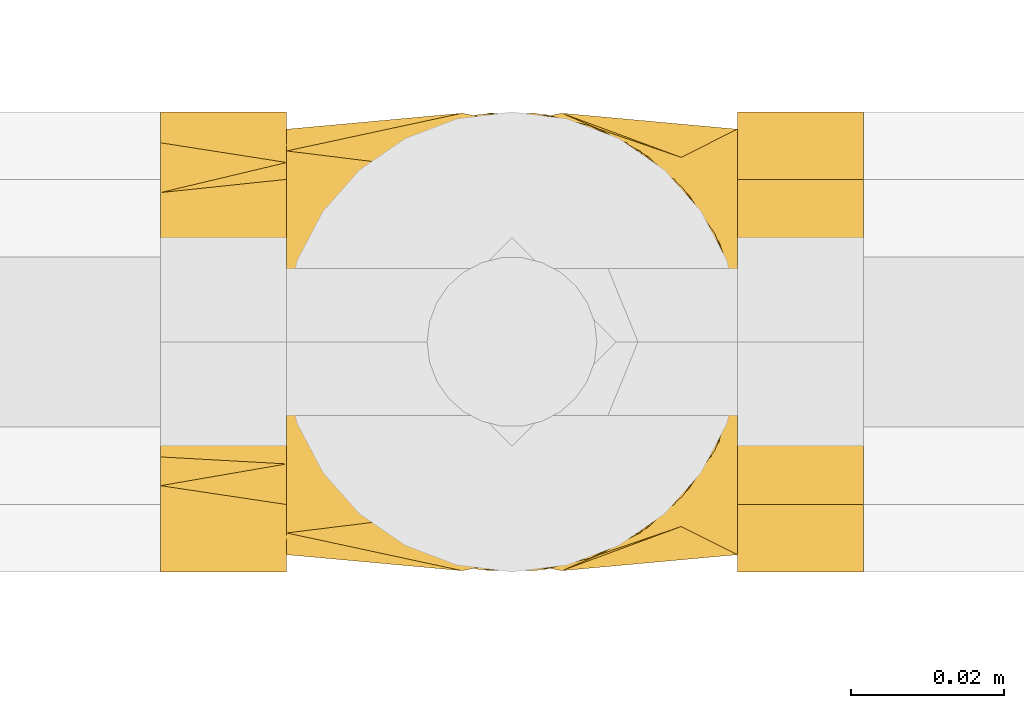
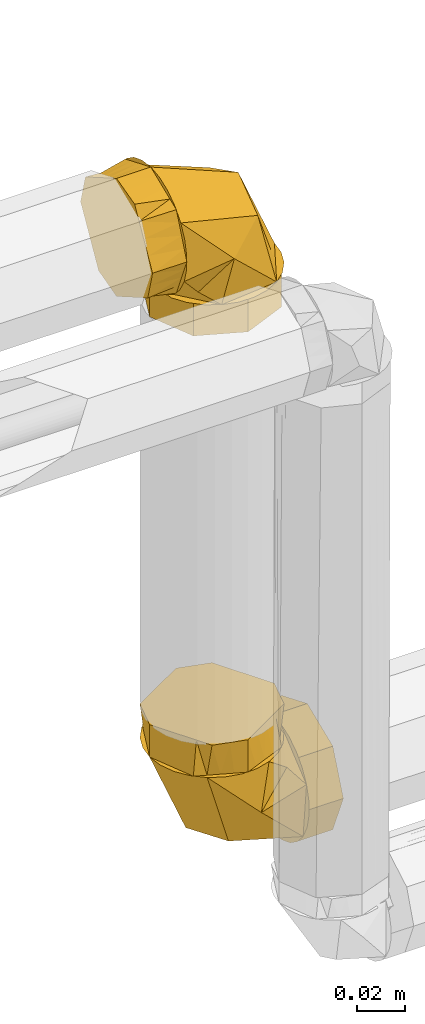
# One storey, part 207 of 652: 2 coverings.
"""IFC2X3 building model written with IfcOpenShell, lengths in millimetres."""

import ifcopenshell
import ifcopenshell.guid

model = None  # the IFC model being written
_history = None  # IfcOwnerHistory: only IFC2X3 demands one
_inside = {}  # id of a spatial element -> (the spatial element, [elements in it])
_under = {}  # id of a project, library or spatial element -> (it, [spatial elements below it])
_declared = {}  # id of a project -> (the project, [libraries it declares])
_typed = {}  # id of a type object -> (the type object, [elements of that type])
_made_of = {}  # id of a material, layer set ... -> (it, [elements and type objects made of it])


def new_model(schema):
    """Start an empty IFC model of exactly this schema.

    Asked for "IFC4X3", IfcOpenShell would pick the latest addendum, in which some entities
    have other attributes; the version numbers below select the first issue.
    IFC2X3 requires an IfcOwnerHistory on every rooted entity: one is made here for all.
    """
    global model, _history
    if schema == "IFC4X3":
        model = ifcopenshell.file(schema_version=(4, 3, 0, 0))
    else:
        model = ifcopenshell.file(schema=schema)
    _inside.clear()
    _under.clear()
    _declared.clear()
    _typed.clear()
    _made_of.clear()
    _history = None
    if model.schema == "IFC2X3":
        org = make("IfcOrganization", Name="unknown")
        user = make(
            "IfcPersonAndOrganization",
            ThePerson=make("IfcPerson", FamilyName="unknown"),
            TheOrganization=org,
        )
        app = make(
            "IfcApplication",
            ApplicationDeveloper=org,
            Version="unknown",
            ApplicationFullName="unknown",
            ApplicationIdentifier="unknown",
        )
        _history = make(
            "IfcOwnerHistory",
            OwningUser=user,
            OwningApplication=app,
            ChangeAction="ADDED",
            CreationDate=0,
        )
    return model


def make(cls, **values):
    """One entity of the class cls with the attributes given. An attribute that is None is left unset."""
    return model.create_entity(
        cls, **{name: value for name, value in values.items() if value is not None}
    )


def entity(cls, *values):
    """Any entity or typed value of the class cls, its attributes in the order of the schema. None: left unset."""
    e = model.create_entity(cls)
    for i, value in enumerate(values):
        if value is not None:
            e[i] = value
    return e


def rooted(cls, **values):
    """An entity with a GlobalId (a new one), such as an element, a storey or a relation."""
    return make(cls, GlobalId=ifcopenshell.guid.new(), OwnerHistory=_history, **values)


def si_unit(unit_type, name, prefix=None):
    """IfcSIUnit, for example si_unit("LENGTHUNIT", "METRE", prefix="MILLI")."""
    return make("IfcSIUnit", UnitType=unit_type, Prefix=prefix, Name=name)


def converted_unit(unit_type, name, factor, base, dimensions=None, offset=None):
    """IfcConversionBasedUnit, such as the inch: factor (a typed value) times the base unit."""
    return make(
        "IfcConversionBasedUnit"
        if offset is None
        else "IfcConversionBasedUnitWithOffset",
        ConversionOffset=offset,
        Dimensions=None
        if dimensions is None
        else entity("IfcDimensionalExponents", *dimensions),
        UnitType=unit_type,
        Name=name,
        ConversionFactor=make(
            "IfcMeasureWithUnit", ValueComponent=factor, UnitComponent=base
        ),
    )


def assignment(units):
    """IfcUnitAssignment: the units of a project."""
    return None if units is None else make("IfcUnitAssignment", Units=units)


def point(xyz):
    """IfcCartesianPoint."""
    return None if xyz is None else make("IfcCartesianPoint", Coordinates=xyz)


def direction(xyz):
    """IfcDirection."""
    return None if xyz is None else make("IfcDirection", DirectionRatios=xyz)


def frame(location, z_axis=None, x_axis=None):
    """IfcAxis2Placement3D, a coordinate frame: its origin and axes. An axis left out is left unset."""
    return make(
        "IfcAxis2Placement3D",
        Location=point(location),
        Axis=direction(z_axis),
        RefDirection=direction(x_axis),
    )


def origin():
    """The frame at (0, 0, 0) with its axes left unset."""
    return frame((0.0, 0.0, 0.0))


def place(relative_to, where):
    """IfcLocalPlacement: puts the frame where relative to a parent placement (None: the world)."""
    return make(
        "IfcLocalPlacement", PlacementRelTo=relative_to, RelativePlacement=where
    )


def context(
    kind, dimensions, precision=None, world=None, true_north=None, identifier=None
):
    """IfcGeometricRepresentationContext, for example the 3D "Model" context."""
    return make(
        "IfcGeometricRepresentationContext",
        ContextIdentifier=identifier,
        ContextType=kind,
        CoordinateSpaceDimension=dimensions,
        Precision=precision,
        WorldCoordinateSystem=world,
        TrueNorth=true_north,
    )


def subcontext(parent, identifier, kind, view, scale=None):
    """IfcGeometricRepresentationSubContext, for example "Body" below "Model"."""
    return make(
        "IfcGeometricRepresentationSubContext",
        ContextIdentifier=identifier,
        ContextType=kind,
        ParentContext=parent,
        TargetScale=scale,
        TargetView=view,
    )


def project(units=None, contexts=None):
    """IfcProject with its units and contexts."""
    return rooted(
        "IfcProject",
        Name="project",
        RepresentationContexts=contexts,
        UnitsInContext=assignment(units),
    )


def spatial(cls, under=None, at=None, **own):
    """A site, building, storey or space (cls), placed at a placement, below another one or the project."""
    s = rooted(cls, ObjectPlacement=at, **own)
    if under is not None:
        _under.setdefault(under.id(), (under, []))[1].append(s)
    return s


def faces_of(points, faces, orient=None, outer=None):
    """IfcFace entities. A face is a list of loops; a loop is a list of indices into points, from 0.

    orient and outer hold one flag for each loop. By default every Orientation is true, the
    first loop of a face is its IfcFaceOuterBound and the others are IfcFaceBound.
    """
    made = []
    for i, loops in enumerate(faces):
        bounds = []
        for j, loop in enumerate(loops):
            is_outer = j == 0 if outer is None else outer[i][j]
            bounds.append(
                make(
                    "IfcFaceOuterBound" if is_outer else "IfcFaceBound",
                    Bound=make("IfcPolyLoop", Polygon=[points[k] for k in loop]),
                    Orientation=True if orient is None else orient[i][j],
                )
            )
        made.append(make("IfcFace", Bounds=bounds))
    return made


def face_set(faces, orient=None, outer=None):
    """The faces of one IfcConnectedFaceSet. surface_model builds it on its shared points."""
    return ("IfcConnectedFaceSet", faces, orient, outer)


def surface_model(cls, points, shells):
    """IfcFaceBasedSurfaceModel or IfcShellBasedSurfaceModel (cls): surfaces that need not close."""
    shared = [point(p) for p in points]
    made = [make(c, CfsFaces=faces_of(shared, fs, o, b)) for c, fs, o, b in shells]
    if cls == "IfcFaceBasedSurfaceModel":
        return make(cls, FbsmFaces=made)
    return make(cls, SbsmBoundary=made)


def shape(context_of_items, identifier, shape_type, items):
    """IfcShapeRepresentation: the items that make up one representation, for example the "Body"."""
    return make(
        "IfcShapeRepresentation",
        ContextOfItems=context_of_items,
        RepresentationIdentifier=identifier,
        RepresentationType=shape_type,
        Items=items,
    )


def material(Name=None, Category=None):
    """IfcMaterial."""
    return make("IfcMaterial", Name=Name, Category=Category)


def made_of(thing, what):
    """Note that an element or type object is made of a material, layer set ...; save() writes the relation."""
    if what is not None:
        _made_of.setdefault(what.id(), (what, []))[1].append(thing)
    return thing


def type_object(cls, material=None, **own):
    """A type object (cls), such as IfcWallType, which elements share."""
    return made_of(rooted(cls, **own), material)


def element(
    cls,
    number,
    at=None,
    inside=None,
    cuts=None,
    type_object=None,
    material=None,
    context=None,
    identifier="Body",
    shape_type=None,
    held_by="IfcProductDefinitionShape",
    body=None,
    shapes=None,
    **own,
):
    """One element of the class cls, such as IfcWall. Its Tag is "e" and its number.

    at: its placement. inside: the storey or other place that contains it. cuts: it is an
    opening in that element (IfcRelVoidsElement). A single representation is given by context,
    identifier, shape_type and body (its items); several are given by shapes. held_by: the class
    of the entity that holds the representations. save() writes the other relations.
    """
    e = rooted(cls, Tag="e%d" % number, ObjectPlacement=at, **own)
    if body is not None:
        shapes = [shape(context, identifier, shape_type, body)]
    if shapes is not None:
        e.Representation = make(held_by, Representations=shapes)
    if inside is not None:
        _inside.setdefault(inside.id(), (inside, []))[1].append(e)
    if cuts is not None:
        rooted(
            "IfcRelVoidsElement", RelatingBuildingElement=cuts, RelatedOpeningElement=e
        )
    if type_object is not None:
        _typed.setdefault(type_object.id(), (type_object, []))[1].append(e)
    return made_of(e, material)


def aggregate(whole, parts):
    """IfcRelAggregates: a whole, such as a stair, and the parts it consists of."""
    return rooted("IfcRelAggregates", RelatingObject=whole, RelatedObjects=parts)


def save(model, path):
    """Write the relations noted so far, then the file.

    IfcRelAggregates (storeys below a building ...), IfcRelContainedInSpatialStructure (elements
    in a storey), IfcRelDefinesByType, IfcRelAssociatesMaterial and IfcRelDeclares: one each for
    every whole, place, type object, material and project.
    """
    for whole, parts in _under.values():
        aggregate(whole, parts)
    for where, things in _inside.values():
        rooted(
            "IfcRelContainedInSpatialStructure",
            RelatedElements=things,
            RelatingStructure=where,
        )
    for kind, things in _typed.values():
        rooted("IfcRelDefinesByType", RelatedObjects=things, RelatingType=kind)
    for what, things in _made_of.values():
        rooted("IfcRelAssociatesMaterial", RelatedObjects=things, RelatingMaterial=what)
    for by, libraries in _declared.values():
        rooted("IfcRelDeclares", RelatingContext=by, RelatedDefinitions=libraries)
    model.write(path)


model = new_model("IFC2X3")

# Units and contexts
model_context = context("Model", 3, precision=0.01, world=frame((0.0, 0.0, 308426.39999999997)), true_north=direction((6.123233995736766e-17, 1.0)))
plan_context = context("Plan", 3, precision=0.01, world=frame((0.0, 0.0, 308426.39999999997)), true_north=direction((6.123233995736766e-17, 1.0)))
body_context = subcontext(model_context, "Body", "Model", "MODEL_VIEW")
ifc_project = project(units=[si_unit("LENGTHUNIT", "METRE", prefix="MILLI"), si_unit("AREAUNIT", "SQUARE_METRE"), si_unit("VOLUMEUNIT", "CUBIC_METRE"), converted_unit("PLANEANGLEUNIT", "DEGREE", entity("IfcPlaneAngleMeasure", 0.017453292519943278), si_unit("PLANEANGLEUNIT", "RADIAN"), dimensions=[0, 0, 0, 0, 0, 0, 0])], contexts=[model_context, plan_context])

# Site, building, storey
site_placement = place(None, origin())
site = spatial("IfcSite", under=ifc_project, at=site_placement, Name="Default", CompositionType="ELEMENT")
building_placement = place(site_placement, origin())
building = spatial("IfcBuilding", under=site, at=building_placement, CompositionType="ELEMENT")
storey_placement = place(building_placement, frame((0.0, 0.0, 1730.6999999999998)))
storey = spatial("IfcBuildingStorey", under=building, at=storey_placement, Name="EG_Produktion_FFB", CompositionType="ELEMENT", Elevation=1730.6999999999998)

# Coverings
ifc_material = material(Name="Dämmung - Armaflex-Schlauch")
covering_type = type_object("IfcCoveringType", Name="Rohrdämmung außen:Armaflex-Schlauch", PredefinedType="INSULATION")
covering_1_placement = place(storey_placement, frame((38831.24397776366, 69883.29222776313, 3946.017249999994)))
element("IfcCovering", 1, at=covering_1_placement, inside=storey, type_object=covering_type, material=ifc_material, Name="Rohrdämmung außen:Armaflex-Schlauch", ObjectType="Rohrdämmung außen:Armaflex-Schlauch", PredefinedType="INSULATION", context=body_context, shape_type="SurfaceModel", body=[
    surface_model("IfcFaceBasedSurfaceModel", [(61.212272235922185, 25.687212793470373, -16.512749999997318), (61.212272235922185, 44.70572496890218, -18.854483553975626), (61.212272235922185, 50.906653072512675, -22.818852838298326), (61.212272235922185, 55.96068805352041, -28.1690363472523), (61.212272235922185, 59.56591450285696, -34.58542749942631), (61.212272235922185, 61.50696520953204, -41.68472713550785), (61.21227223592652, 61.667886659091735, -49.04284085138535), (61.21227223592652, 60.03906580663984, -56.22021333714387), (61.21227223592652, 56.71780433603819, -62.788086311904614), (61.21227223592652, 51.902506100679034, -68.3541114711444), (61.21227223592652, 45.88082497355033, -72.58578839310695), (61.21227223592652, 39.012481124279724, -75.2303272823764), (61.21227223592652, 31.70777223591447, -76.1297499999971), (61.21227223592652, 24.40306334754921, -75.2303272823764), (61.21227223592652, 17.534719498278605, -72.58578839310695), (61.21227223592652, 11.513038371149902, -68.3541114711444), (61.21227223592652, 6.697740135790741, -62.788086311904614), (61.21227223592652, 3.3764786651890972, -56.22021333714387), (61.21227223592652, 1.7476578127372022, -49.04284085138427), (61.212272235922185, 1.908579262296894, -41.68472713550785), (61.212272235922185, 3.8496299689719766, -34.58542749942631), (61.212272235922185, 7.454856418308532, -28.1690363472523), (61.212272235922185, 12.508891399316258, -22.818852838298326), (61.212272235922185, 18.70981950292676, -18.854483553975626), (61.212272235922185, 37.728331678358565, -16.512749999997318), (58.87053868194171, 18.70981950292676, -16.512749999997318), (54.90616939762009, 12.508891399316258, -16.512749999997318), (49.55598588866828, 7.454856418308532, -16.5127499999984), (43.13959473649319, 3.8496299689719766, -16.5127499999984), (36.040295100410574, 1.908579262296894, -16.512749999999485), (28.682181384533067, 1.7476578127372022, -16.512749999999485), (21.50480889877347, 3.3764786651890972, -16.512750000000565), (14.936935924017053, 6.697740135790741, -16.512750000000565), (9.37091076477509, 11.513038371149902, -16.51275000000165), (5.139233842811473, 17.534719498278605, -16.51275000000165), (2.494694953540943, 24.40306334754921, -16.51275000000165), (1.5952722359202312, 31.70777223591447, -16.51275000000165), (2.494694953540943, 39.012481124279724, -16.51275000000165), (5.139233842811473, 45.88082497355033, -16.51275000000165), (9.37091076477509, 51.902506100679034, -16.51275000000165), (14.936935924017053, 56.71780433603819, -16.512750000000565), (21.50480889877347, 60.03906580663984, -16.512750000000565), (28.682181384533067, 61.667886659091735, -16.512749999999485), (36.040295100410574, 61.50696520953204, -16.512749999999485), (43.13959473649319, 59.56591450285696, -16.5127499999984), (49.55598588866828, 55.96068805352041, -16.5127499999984), (54.90616939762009, 50.906653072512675, -16.512749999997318), (58.87053868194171, 44.70572496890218, -16.512749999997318), (53.84763600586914, 7.534737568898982, -25.40638574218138), (52.34075124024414, 14.966842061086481, -16.51274255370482), (61.21230275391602, 14.966842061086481, -25.38313134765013), (28.042234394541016, 11.613558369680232, -56.47018731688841), (61.21230275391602, 19.43168581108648, -69.58101495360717), (38.209055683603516, 1.7490442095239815, -39.51482690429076), (29.037522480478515, 5.274410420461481, -16.51274255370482), (19.056736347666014, 31.71000612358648, -58.66830895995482), (8.266697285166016, 19.203792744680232, -16.51274255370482), (61.21230275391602, 5.274410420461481, -48.68694146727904), (53.84763600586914, 55.88062379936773, -25.40638574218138), (61.21230275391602, 48.448519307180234, -25.38313134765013), (28.042234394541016, 51.80180299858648, -56.47018731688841), (61.21230275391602, 43.983675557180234, -69.58101495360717), (52.175645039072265, 48.64850710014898, -16.51274255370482), (38.209055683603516, 61.666317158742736, -39.51482690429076), (8.266697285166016, 44.21156862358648, -16.51274255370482), (61.21230275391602, 58.14095094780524, -48.68694146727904), (29.037522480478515, 58.14095094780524, -16.51274255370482), (77.72502223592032, 15.738207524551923, -69.51493971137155), (77.72502223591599, 21.061395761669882, -71.71987647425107), (77.72502223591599, 26.384583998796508, -73.92481323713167), (77.72502223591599, 31.70777223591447, -76.12975000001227), (77.72502223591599, 38.57087959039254, -73.28695785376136), (77.72502223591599, 42.35414871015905, -71.71987647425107), (77.72502223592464, 47.67733694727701, -69.51493971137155), (77.72502223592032, 53.000525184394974, -67.31000294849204), (77.72502223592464, 55.20546194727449, -61.98681471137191), (77.72502223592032, 57.410398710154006, -56.663626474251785), (77.72502223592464, 59.615335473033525, -51.34043823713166), (77.72502223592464, 61.8202722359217, -46.01725000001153), (77.72502223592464, 58.97748009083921, -39.1541426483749), (77.72502223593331, 57.410398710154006, -35.37087352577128), (77.72502223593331, 55.20546194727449, -30.047685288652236), (77.72502223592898, 53.000525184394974, -24.724497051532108), (77.72502223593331, 47.67733694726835, -22.51956028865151), (77.72502223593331, 42.35414871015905, -20.314623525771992), (77.72502223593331, 37.03096047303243, -18.10968676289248), (77.72502223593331, 31.70777223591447, -15.90475000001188), (77.72502223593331, 24.844664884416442, -18.747542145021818), (77.72502223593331, 21.061395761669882, -20.314623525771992), (77.72502223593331, 15.738207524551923, -22.51956028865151), (77.72502223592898, 10.415019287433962, -24.724497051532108), (77.72502223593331, 8.210082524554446, -30.047685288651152), (77.72502223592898, 6.005145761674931, -35.37087352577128), (77.72502223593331, 3.800208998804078, -40.69406176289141), (77.72502223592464, 1.5952722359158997, -46.01725000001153), (77.72502223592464, 4.438064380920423, -52.88035735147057), (77.72502223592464, 6.005145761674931, -56.663626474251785), (77.72502223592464, 8.210082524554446, -61.986814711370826), (77.72502223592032, 10.415019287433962, -67.31000294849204), (61.212272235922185, 61.8202722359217, -46.017250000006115), (61.212272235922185, 59.615335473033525, -51.34043823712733), (61.21227223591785, 57.410398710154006, -56.66362647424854), (61.212272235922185, 55.20546194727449, -61.98681471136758), (61.21227223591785, 53.000525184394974, -67.31000294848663), (61.21227223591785, 45.43398709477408, -70.4441656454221), (61.212272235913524, 38.57087966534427, -73.28695782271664), (61.212272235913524, 31.70777223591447, -76.12975000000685), (61.212272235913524, 26.384583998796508, -73.92481323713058), (61.212272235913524, 21.061395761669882, -71.71987647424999), (61.21227223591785, 15.738207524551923, -69.5149397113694), (61.21227223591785, 10.415019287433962, -67.31000294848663), (61.21227223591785, 7.280856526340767, -59.743464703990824), (61.212272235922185, 4.438064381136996, -52.88035735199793), (61.212272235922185, 1.5952722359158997, -46.017250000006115), (61.212272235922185, 3.8002089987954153, -40.694061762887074), (61.21227223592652, 6.005145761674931, -35.370873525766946), (61.21227223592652, 8.210082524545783, -30.047685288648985), (61.21227223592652, 10.415019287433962, -24.724497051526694), (61.21227223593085, 17.981557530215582, -21.59033429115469), (61.21227223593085, 24.844664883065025, -18.74754214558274), (61.21227223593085, 31.70777223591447, -15.904750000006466), (61.21227223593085, 37.03096047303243, -18.109686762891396), (61.21227223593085, 42.35414871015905, -20.314623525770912), (61.21227223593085, 47.677336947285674, -22.519560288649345), (61.21227223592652, 53.000525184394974, -24.724497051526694), (61.21227223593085, 56.13468794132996, -32.29103528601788), (61.212272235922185, 58.9774800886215, -39.15414264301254), (1.5952722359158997, 31.70777223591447, 0.0), (5.359334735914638, 25.18822474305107, 0.0), (9.123397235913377, 18.66867725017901, 0.0), (12.887459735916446, 12.14912975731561, 0.0), (16.651522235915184, 5.62958226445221, 0.0), (24.179647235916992, 3.612427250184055, 0.0), (31.70777223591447, 1.5952722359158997, 0.0), (38.227319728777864, 5.3593347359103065, 0.0), (44.74686722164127, 9.123397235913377, 0.0), (51.266414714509, 12.887459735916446, 0.0), (57.78596220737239, 16.651522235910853, 0.0), (59.80311722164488, 24.179647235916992, 0.0), (61.82027223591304, 31.70777223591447, 0.0), (58.05620973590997, 38.227319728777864, 0.0), (54.29214723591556, 44.74686722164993, 0.0), (50.52808473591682, 51.266414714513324, 0.0), (46.76402223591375, 57.78596220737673, 0.0), (39.23589723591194, 59.80311722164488, 0.0), (31.70777223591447, 61.82027223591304, 0.0), (25.18822474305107, 58.05620973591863, 0.0), (18.66867725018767, 54.29214723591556, 0.0), (12.149129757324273, 50.528084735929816, 0.0), (5.629582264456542, 46.764022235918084, 0.0), (3.612427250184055, 39.23589723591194, 0.0), (1.5952722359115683, 31.70777223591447, -16.512750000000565), (3.8002089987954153, 37.03096047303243, -16.512750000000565), (6.005145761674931, 42.35414871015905, -16.512750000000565), (8.210082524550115, 47.67733694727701, -16.512750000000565), (10.415019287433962, 53.000525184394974, -16.512750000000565), (15.738207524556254, 55.20546194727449, -16.512750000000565), (21.061395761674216, 57.410398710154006, -16.512750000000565), (26.384583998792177, 59.61533547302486, -16.51275000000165), (31.70777223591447, 61.82027223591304, -16.512750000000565), (37.03096047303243, 59.615335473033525, -16.512750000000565), (42.354148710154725, 57.410398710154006, -16.512750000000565), (47.67733694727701, 55.20546194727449, -16.512750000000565), (53.000525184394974, 53.000525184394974, -16.512750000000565), (55.20546194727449, 47.67733694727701, -16.512750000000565), (57.410398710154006, 42.35414871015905, -16.512750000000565), (59.615335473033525, 37.03096047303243, -16.512750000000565), (61.82027223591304, 31.70777223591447, -16.512750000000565), (59.615335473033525, 26.384583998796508, -16.512750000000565), (57.410398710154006, 21.061395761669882, -16.512750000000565), (55.20546194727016, 15.738207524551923, -16.512750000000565), (53.000525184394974, 10.415019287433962, -16.512750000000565), (47.677336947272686, 8.210082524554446, -16.512750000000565), (42.354148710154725, 6.005145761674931, -16.512750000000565), (37.03096047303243, 3.8002089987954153, -16.512750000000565), (31.70777223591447, 1.5952722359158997, -16.512750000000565), (26.384583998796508, 3.8002089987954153, -16.512750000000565), (21.061395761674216, 6.005145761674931, -16.512750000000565), (15.738207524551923, 8.210082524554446, -16.512750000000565), (10.415019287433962, 10.415019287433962, -16.512750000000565), (8.210082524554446, 15.738207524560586, -16.512750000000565), (6.005145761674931, 21.061395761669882, -16.512750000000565), (3.8002089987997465, 26.384583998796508, -16.512750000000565)], [face_set([[[0, 1, 2, 3, 4, 5, 6, 7, 8, 9, 10, 11, 12, 13, 14, 15, 16, 17, 18, 19, 20, 21, 22, 23]], [[24, 25, 26, 27, 28, 29, 30, 31, 32, 33, 34, 35, 36, 37, 38, 39, 40, 41, 42, 43, 44, 45, 46, 47]], [[48, 0, 49]], [[50, 48, 20]], [[51, 52, 16]], [[51, 16, 53]], [[53, 28, 54, 32]], [[48, 49, 28]], [[32, 51, 53]], [[55, 51, 56]], [[57, 20, 53]], [[56, 36, 55]], [[55, 52, 51]], [[48, 50, 0]], [[55, 12, 52]], [[20, 48, 53]], [[53, 16, 57]], [[28, 53, 48]], [[51, 32, 56]], [[58, 59, 4]], [[60, 61, 55]], [[24, 58, 62]], [[58, 4, 63]], [[8, 60, 63]], [[55, 64, 60]], [[24, 59, 58]], [[65, 8, 63]], [[44, 58, 63]], [[58, 44, 62]], [[61, 60, 8]], [[61, 12, 55]], [[63, 40, 66, 44]], [[63, 4, 65]], [[40, 63, 60]], [[64, 55, 36]], [[64, 40, 60]]]), face_set([[[67, 68, 69, 70, 71, 72, 73, 74, 75, 76, 77, 78, 79, 80, 81, 82, 83, 84, 85, 86, 87, 88, 89, 90, 91, 92, 93, 94, 95, 96, 97, 98]], [[99, 100, 101, 102, 103, 104, 105, 106, 107, 108, 109, 110, 111, 112, 113, 114, 115, 116, 117, 118, 119, 120, 121, 122, 123, 124, 125, 126]], [[105, 104, 103, 74, 73, 72, 71, 70, 106]], [[74, 103, 102, 101, 100, 99, 78, 77, 76, 75]], [[126, 125, 124, 82, 81, 80, 79, 78, 99]], [[82, 124, 123, 122, 121, 120, 86, 85, 84, 83]], [[119, 118, 117, 90, 89, 88, 87, 86, 120]], [[90, 117, 116, 115, 114, 113, 94, 93, 92, 91]], [[112, 111, 110, 98, 97, 96, 95, 94, 113]], [[98, 110, 109, 108, 107, 106, 70, 69, 68, 67]]]), face_set([[[127, 128, 129, 130, 131, 132, 133, 134, 135, 136, 137, 138, 139, 140, 141, 142, 143, 144, 145, 146, 147, 148, 149, 150]], [[151, 152, 153, 154, 155, 156, 157, 158, 159, 160, 161, 162, 163, 164, 165, 166, 167, 168, 169, 170, 171, 172, 173, 174, 175, 176, 177, 178, 179, 180, 181, 182]], [[170, 136, 171]], [[133, 174, 134]], [[174, 173, 134]], [[138, 169, 168]], [[168, 167, 139]], [[136, 170, 137]], [[135, 173, 172]], [[133, 175, 174]], [[173, 135, 134]], [[139, 138, 168]], [[172, 171, 136]], [[170, 169, 137]], [[138, 137, 169]], [[135, 172, 136]], [[178, 130, 179]], [[127, 182, 128]], [[182, 181, 128]], [[132, 177, 176]], [[176, 175, 133]], [[130, 178, 131]], [[129, 181, 180]], [[127, 151, 182]], [[181, 129, 128]], [[133, 132, 176]], [[180, 179, 130]], [[178, 177, 131]], [[132, 131, 177]], [[129, 180, 130]], [[154, 148, 155]], [[145, 158, 146]], [[158, 157, 146]], [[150, 153, 152]], [[152, 151, 127]], [[148, 154, 149]], [[147, 157, 156]], [[145, 159, 158]], [[157, 147, 146]], [[127, 150, 152]], [[156, 155, 148]], [[154, 153, 149]], [[150, 149, 153]], [[147, 156, 148]], [[162, 142, 163]], [[139, 166, 140]], [[166, 165, 140]], [[144, 161, 160]], [[160, 159, 145]], [[142, 162, 143]], [[141, 165, 164]], [[139, 167, 166]], [[165, 141, 140]], [[145, 144, 160]], [[164, 163, 142]], [[162, 161, 143]], [[144, 143, 161]], [[141, 164, 142]]])]),
])
covering_2_placement = place(storey_placement, frame((38816.934499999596, 69883.29222776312, 4231.707772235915)))
element("IfcCovering", 2, at=covering_2_placement, inside=storey, type_object=covering_type, material=ifc_material, Name="Rohrdämmung außen:Armaflex-Schlauch", ObjectType="Rohrdämmung außen:Armaflex-Schlauch", PredefinedType="INSULATION", context=body_context, shape_type="SurfaceModel", body=[
    surface_model("IfcFaceBasedSurfaceModel", [(16.512750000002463, 37.72833167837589, -61.212272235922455), (18.854483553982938, 44.705724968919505, -61.212272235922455), (22.818852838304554, 50.906653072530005, -61.212272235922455), (28.169036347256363, 55.96068805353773, -61.212272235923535), (34.585427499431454, 59.565914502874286, -61.212272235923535), (41.68472713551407, 61.50696520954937, -61.21227223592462), (49.04284085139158, 61.66788665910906, -61.21227223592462), (56.22021333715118, 60.03906580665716, -61.2122722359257), (62.78808631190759, 56.71780433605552, -61.2122722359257), (68.35411147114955, 51.902506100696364, -61.21227223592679), (72.58578839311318, 45.880824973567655, -61.21227223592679), (75.2303272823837, 39.012481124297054, -61.21227223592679), (76.12975000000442, 31.707772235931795, -61.21227223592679), (75.2303272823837, 24.403063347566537, -61.21227223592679), (72.58578839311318, 17.53471949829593, -61.21227223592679), (68.35411147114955, 11.513038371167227, -61.21227223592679), (62.78808631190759, 6.6977401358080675, -61.2122722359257), (56.22021333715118, 3.3764786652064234, -61.2122722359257), (49.04284085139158, 1.7476578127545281, -61.21227223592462), (41.68472713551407, 1.9085792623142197, -61.21227223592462), (34.585427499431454, 3.8496299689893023, -61.212272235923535), (28.169036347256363, 7.454856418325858, -61.212272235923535), (22.818852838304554, 12.508891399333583, -61.212272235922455), (18.854483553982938, 18.709819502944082, -61.212272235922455), (16.512750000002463, 25.6872127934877, -61.212272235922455), (16.512750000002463, 18.709819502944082, -58.87053868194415), (16.512750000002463, 12.508891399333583, -54.90616939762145), (16.512750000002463, 7.454856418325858, -49.55598588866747), (16.512750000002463, 3.8496299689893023, -43.139594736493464), (16.512750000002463, 1.9085792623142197, -36.040295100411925), (16.512750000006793, 1.7476578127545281, -28.68218138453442), (16.512750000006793, 3.3764786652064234, -21.504808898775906), (16.512750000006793, 6.6977401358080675, -14.936935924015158), (16.512750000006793, 11.513038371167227, -9.370910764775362), (16.512750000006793, 17.53471949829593, -5.139233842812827), (16.512750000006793, 24.403063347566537, -2.49469495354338), (16.512750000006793, 31.707772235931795, -1.5952722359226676), (16.512750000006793, 39.012481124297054, -2.49469495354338), (16.512750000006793, 45.880824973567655, -5.139233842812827), (16.512750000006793, 51.902506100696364, -9.370910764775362), (16.512750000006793, 56.71780433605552, -14.936935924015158), (16.512750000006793, 60.03906580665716, -21.504808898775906), (16.512750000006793, 61.66788665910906, -28.682181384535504), (16.512750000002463, 61.50696520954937, -36.040295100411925), (16.512750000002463, 59.565914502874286, -43.139594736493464), (16.512750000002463, 55.96068805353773, -49.55598588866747), (16.512750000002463, 50.906653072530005, -54.90616939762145), (16.512750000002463, 44.705724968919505, -58.87053868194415), (25.406234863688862, 55.880623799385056, -53.84749391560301), (16.51375439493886, 48.44851930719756, -52.34177186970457), (25.382980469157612, 48.44851930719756, -61.21216066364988), (56.46945507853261, 51.80180299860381, -28.0415109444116), (69.58028271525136, 43.98367555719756, -61.21216066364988), (39.51467602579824, 61.66631715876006, -38.210076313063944), (16.51375439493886, 58.14095094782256, -29.038543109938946), (58.66932080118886, 31.710006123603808, -19.05659425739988), (16.51375439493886, 44.21156862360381, -8.265973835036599), (48.68620922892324, 58.14095094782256, -61.21216066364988), (25.406234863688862, 7.534737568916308, -53.84749391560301), (25.382980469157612, 14.966842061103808, -61.21216066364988), (56.46945507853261, 11.613558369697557, -28.0415109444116), (69.58028271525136, 19.431685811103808, -61.21216066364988), (16.51375439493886, 14.766854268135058, -52.17608430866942), (39.51467602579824, 1.7490442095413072, -38.210076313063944), (16.51375439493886, 19.20379274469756, -8.265973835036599), (48.68620922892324, 5.274410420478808, -61.21216066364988), (16.51375439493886, 5.274410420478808, -29.038543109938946), (76.12975000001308, 31.707772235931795, -77.72502223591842), (73.28695785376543, 24.844664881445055, -77.72502223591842), (71.71987647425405, 21.06139576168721, -77.7250222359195), (69.51493971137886, 15.738207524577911, -77.7250222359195), (67.31000294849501, 10.415019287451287, -77.72502223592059), (61.98681471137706, 8.210082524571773, -77.72502223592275), (56.66362647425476, 6.005145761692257, -77.72502223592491), (51.34043823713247, 3.800208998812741, -77.72502223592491), (46.017250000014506, 1.5952722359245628, -77.72502223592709), (39.15414264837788, 4.438064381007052, -77.72502223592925), (35.37087352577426, 6.005145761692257, -77.72502223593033), (30.047685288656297, 8.210082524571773, -77.72502223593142), (24.724497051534, 10.415019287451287, -77.72502223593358), (22.519560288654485, 15.738207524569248, -77.72502223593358), (20.31462352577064, 21.06139576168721, -77.72502223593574), (18.109686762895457, 26.384583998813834, -77.72502223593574), (15.904750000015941, 31.707772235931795, -77.72502223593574), (18.747542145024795, 38.57087958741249, -77.72502223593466), (20.31462352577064, 42.35414871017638, -77.72502223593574), (22.519560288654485, 47.67733694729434, -77.72502223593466), (24.724497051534, 53.000525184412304, -77.72502223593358), (30.047685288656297, 55.205461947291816, -77.7250222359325), (35.37087352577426, 57.410398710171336, -77.72502223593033), (40.694061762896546, 59.61533547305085, -77.72502223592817), (46.017250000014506, 61.82027223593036, -77.72502223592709), (52.88035735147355, 58.97748009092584, -77.72502223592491), (56.66362647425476, 57.410398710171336, -77.72502223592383), (61.98681471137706, 55.205461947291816, -77.72502223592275), (67.31000294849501, 53.000525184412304, -77.72502223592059), (69.51493971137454, 47.677336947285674, -77.72502223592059), (71.71987647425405, 42.35414871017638, -77.7250222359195), (73.92481323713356, 37.03096047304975, -77.7250222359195), (46.01725000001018, 1.5952722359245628, -61.21227223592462), (51.34043823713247, 3.800208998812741, -61.212272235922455), (56.6636264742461, 6.005145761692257, -61.212272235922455), (61.98681471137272, 8.210082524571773, -61.21227223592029), (67.31000294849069, 10.415019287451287, -61.21227223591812), (70.44416564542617, 17.981557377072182, -61.21227223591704), (73.28695782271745, 24.84466480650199, -61.21227223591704), (76.12975000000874, 31.707772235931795, -61.21227223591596), (73.92481323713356, 37.03096047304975, -61.21227223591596), (71.71987647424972, 42.35414871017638, -61.21227223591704), (69.5149397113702, 47.67733694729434, -61.21227223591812), (67.31000294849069, 53.000525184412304, -61.21227223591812), (59.7434647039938, 56.13468794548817, -61.21227223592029), (52.88035735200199, 58.97748009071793, -61.212272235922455), (46.01725000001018, 61.82027223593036, -61.21227223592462), (40.694061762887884, 59.61533547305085, -61.2122722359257), (35.37087352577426, 57.410398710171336, -61.21227223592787), (30.047685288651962, 55.205461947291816, -61.21227223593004), (24.72449705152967, 53.000525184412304, -61.21227223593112), (21.59033429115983, 45.43398694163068, -61.21227223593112), (18.747542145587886, 38.57087958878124, -61.212272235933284), (15.90475000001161, 31.707772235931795, -61.212272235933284), (18.109686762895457, 26.384583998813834, -61.212272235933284), (20.31462352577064, 21.06139576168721, -61.212272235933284), (22.51956028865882, 15.738207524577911, -61.21227223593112), (24.72449705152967, 10.415019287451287, -61.21227223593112), (32.291035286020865, 7.280856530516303, -61.21227223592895), (39.15414264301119, 4.438064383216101, -61.21227223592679), (0.0, 31.707772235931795, -1.5952722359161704), (0.0, 38.227319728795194, -5.359334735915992), (0.0, 44.74686722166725, -9.123397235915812), (0.0, 51.266414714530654, -12.887459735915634), (0.0, 57.78596220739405, -16.651522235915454), (0.0, 59.803117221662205, -24.1796472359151), (0.0, 61.82027223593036, -31.707772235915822), (0.0, 58.05620973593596, -38.2273197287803), (0.0, 54.29214723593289, -44.74686722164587), (0.0, 50.52808473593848, -51.26641471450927), (0.0, 46.76402223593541, -57.78596220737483), (0.0, 39.23589723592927, -59.80311722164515), (0.0, 31.707772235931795, -61.820272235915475), (0.0, 25.188224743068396, -58.05620973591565), (0.0, 18.668677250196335, -54.292147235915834), (0.0, 12.149129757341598, -50.52808473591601), (0.0, 5.629582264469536, -46.76402223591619), (0.0, 3.6124272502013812, -39.235897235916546), (0.0, 1.5952722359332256, -31.707772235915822), (0.0, 5.359334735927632, -25.18822474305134), (0.0, 9.123397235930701, -18.668677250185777), (0.0, 12.887459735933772, -12.149129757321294), (0.0, 16.65152223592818, -5.629582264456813), (0.0, 24.17964723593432, -3.612427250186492), (16.512750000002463, 31.707772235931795, -1.5952722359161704), (16.512750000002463, 26.384583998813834, -3.8002089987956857), (16.512750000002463, 21.06139576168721, -6.005145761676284), (16.512750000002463, 15.738207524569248, -8.210082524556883), (16.512750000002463, 10.415019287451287, -10.415019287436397), (16.512750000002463, 8.210082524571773, -15.738207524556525), (16.512750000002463, 6.005145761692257, -21.06139576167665), (16.512750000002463, 3.800208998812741, -26.384583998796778), (16.512750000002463, 1.5952722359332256, -31.707772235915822), (16.512750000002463, 3.800208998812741, -37.03096047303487), (16.512750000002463, 6.005145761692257, -42.354148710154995), (16.512750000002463, 8.210082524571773, -47.67733694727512), (16.512750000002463, 10.415019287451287, -53.00052518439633), (16.512750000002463, 15.738207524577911, -55.20546194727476), (16.512750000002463, 21.06139576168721, -57.41039871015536), (16.512750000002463, 26.384583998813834, -59.615335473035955), (16.512750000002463, 31.707772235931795, -61.820272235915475), (16.512750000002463, 37.03096047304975, -59.615335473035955), (16.512750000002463, 42.35414871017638, -57.41039871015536), (16.512750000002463, 47.677336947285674, -55.20546194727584), (16.512750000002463, 53.000525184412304, -53.00052518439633), (16.512750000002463, 55.205461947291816, -47.67733694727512), (16.512750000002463, 57.410398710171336, -42.354148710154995), (16.512750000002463, 59.61533547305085, -37.03096047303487), (16.512750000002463, 61.82027223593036, -31.707772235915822), (16.512750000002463, 59.61533547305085, -26.384583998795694), (16.512750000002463, 57.410398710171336, -21.06139576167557), (16.512750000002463, 55.205461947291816, -15.738207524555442), (16.512750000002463, 53.000525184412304, -10.415019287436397), (16.512750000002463, 47.677336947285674, -8.2100825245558), (16.512750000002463, 42.35414871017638, -6.005145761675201), (16.512750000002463, 37.03096047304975, -3.8002089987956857)], [face_set([[[0, 1, 2, 3, 4, 5, 6, 7, 8, 9, 10, 11, 12, 13, 14, 15, 16, 17, 18, 19, 20, 21, 22, 23]], [[24, 25, 26, 27, 28, 29, 30, 31, 32, 33, 34, 35, 36, 37, 38, 39, 40, 41, 42, 43, 44, 45, 46, 47]], [[48, 0, 49]], [[50, 48, 4]], [[51, 52, 8]], [[51, 8, 53]], [[53, 44, 54]], [[48, 49, 44]], [[40, 51, 53]], [[55, 51, 56]], [[57, 4, 53, 8]], [[56, 36, 55]], [[55, 52, 51]], [[48, 50, 0]], [[55, 12, 52]], [[4, 48, 53]], [[44, 53, 48]], [[54, 40, 53]], [[51, 40, 56]], [[58, 59, 20]], [[60, 61, 55]], [[24, 58, 62]], [[58, 20, 63]], [[16, 60, 63]], [[55, 64, 60]], [[24, 59, 58]], [[65, 16, 63, 20]], [[28, 58, 63]], [[58, 28, 62]], [[61, 60, 16]], [[61, 12, 55]], [[63, 32, 66]], [[32, 63, 60]], [[66, 28, 63]], [[64, 55, 36]], [[64, 32, 60]]]), face_set([[[67, 68, 69, 70, 71, 72, 73, 74, 75, 76, 77, 78, 79, 80, 81, 82, 83, 84, 85, 86, 87, 88, 89, 90, 91, 92, 93, 94, 95, 96, 97, 98]], [[99, 100, 101, 102, 103, 104, 105, 106, 107, 108, 109, 110, 111, 112, 113, 114, 115, 116, 117, 118, 119, 120, 121, 122, 123, 124, 125, 126]], [[105, 104, 103, 71, 70, 69, 68, 67, 106]], [[71, 103, 102, 101, 100, 99, 75, 74, 73, 72]], [[126, 125, 124, 79, 78, 77, 76, 75, 99]], [[79, 124, 123, 122, 121, 120, 83, 82, 81, 80]], [[119, 118, 117, 87, 86, 85, 84, 83, 120]], [[87, 117, 116, 115, 114, 113, 91, 90, 89, 88]], [[112, 111, 110, 95, 94, 93, 92, 91, 113]], [[95, 110, 109, 108, 107, 106, 67, 98, 97, 96]]]), face_set([[[127, 128, 129, 130, 131, 132, 133, 134, 135, 136, 137, 138, 139, 140, 141, 142, 143, 144, 145, 146, 147, 148, 149, 150]], [[151, 152, 153, 154, 155, 156, 157, 158, 159, 160, 161, 162, 163, 164, 165, 166, 167, 168, 169, 170, 171, 172, 173, 174, 175, 176, 177, 178, 179, 180, 181, 182]], [[170, 136, 171]], [[133, 174, 134]], [[174, 173, 134]], [[138, 169, 168]], [[168, 167, 139]], [[136, 170, 137]], [[135, 173, 172]], [[133, 175, 174]], [[173, 135, 134]], [[139, 138, 168]], [[172, 171, 136]], [[170, 169, 137]], [[138, 137, 169]], [[135, 172, 136]], [[178, 130, 179]], [[127, 182, 128]], [[182, 181, 128]], [[132, 177, 176]], [[176, 175, 133]], [[130, 178, 131]], [[129, 181, 180]], [[127, 151, 182]], [[181, 129, 128]], [[133, 132, 176]], [[180, 179, 130]], [[178, 177, 131]], [[132, 131, 177]], [[129, 180, 130]], [[154, 148, 155]], [[145, 158, 146]], [[158, 157, 146]], [[150, 153, 152]], [[152, 151, 127]], [[148, 154, 149]], [[147, 157, 156]], [[145, 159, 158]], [[157, 147, 146]], [[127, 150, 152]], [[156, 155, 148]], [[154, 153, 149]], [[150, 149, 153]], [[147, 156, 148]], [[162, 142, 163]], [[139, 166, 140]], [[166, 165, 140]], [[144, 161, 160]], [[160, 159, 145]], [[142, 162, 143]], [[141, 165, 164]], [[139, 167, 166]], [[165, 141, 140]], [[145, 144, 160]], [[164, 163, 142]], [[162, 161, 143]], [[144, 143, 161]], [[141, 164, 142]]])]),
])

save(model, "model.ifc")
